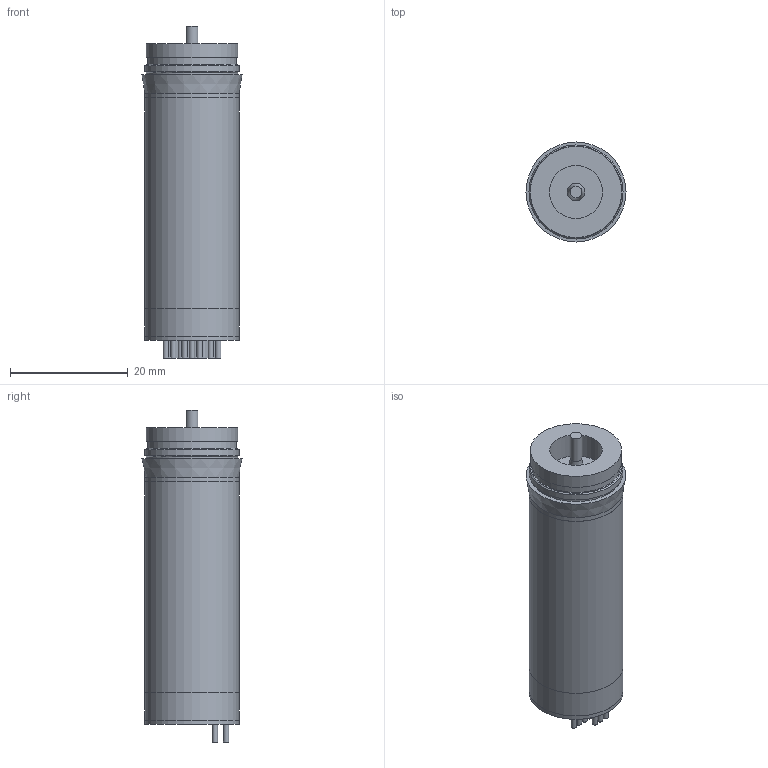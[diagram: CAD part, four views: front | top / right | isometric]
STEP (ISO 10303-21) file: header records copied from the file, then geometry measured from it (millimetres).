
FILE_DESCRIPTION(/* description */ (''),/* implementation_level */ '2;1');
FILE_NAME(/* name */ '1645S_BHS_171.stp',/* time_stamp */ '2018-08-15T10:32:29+02:00',/* author */ ('DR. FRITZ FAULHABER GmbH & Co. KG'),/* organization */ ('DR. FRITZ FAULHABER GmbH & Co. KG'),/* preprocessor_version */ 'ST-DEVELOPER v16.7',/* originating_system */ 'SIEMENS PLM Software NX 12.0',/* authorisation */ '');
FILE_SCHEMA (('AUTOMOTIVE_DESIGN { 1 0 10303 214 3 1 1 1 }'));
Length unit declared in the file: millimetre
Products named in the file (1): Alle_Motoren
Bounding box: 17 x 17 x 56.43 mm (x, y, z)
Volume: 9884.5 mm3; surface area: 3267.7 mm2
Topology: 1 solids, 1 shells, 67 faces, 146 edges, 96 vertices
Faces by surface type: cylinder 31, plane 31, cone 3, torus 2
Full cylindrical faces by diameter (mm): 0.9 x3, 2 x1, 3 x1, 9 x1, 15.1 x1, 15.5 x2, 15.999 x3, 16 x5
Entity records: 1740 total; most frequent: DIRECTION 322, CARTESIAN_POINT 282, ORIENTED_EDGE 242, AXIS2_PLACEMENT_3D 133, EDGE_CURVE 121, EDGE_LOOP 104, VERTEX_POINT 93, FACE_BOUND 71
